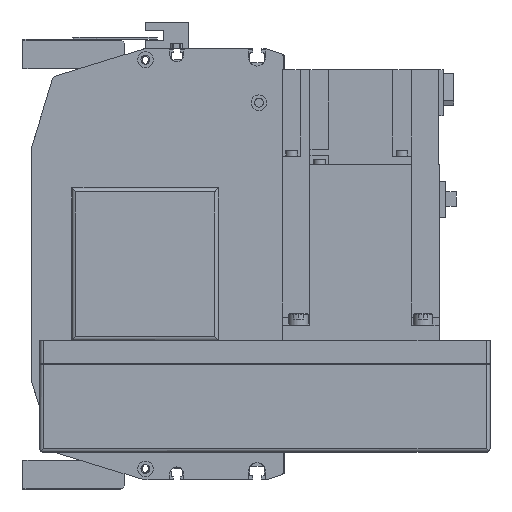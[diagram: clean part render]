
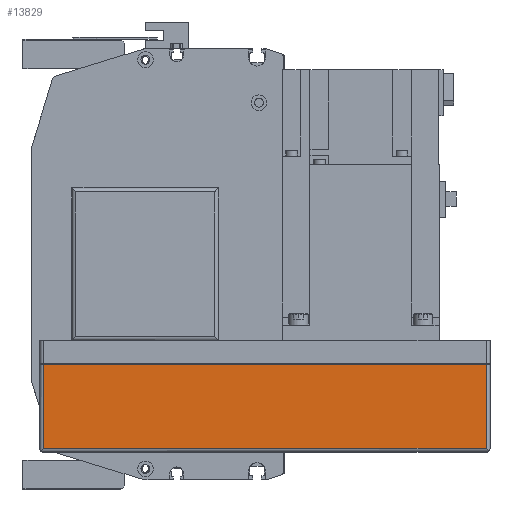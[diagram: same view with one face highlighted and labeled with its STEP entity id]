
A CAD part, left-side view. The second image highlights one B-rep face of the part: STEP entity #13829.
In plain terms, the highlighted planar face has unit normal (-1, 0, 0) as drawn and (0, 1, 0) by its records, which use the part's own axes.
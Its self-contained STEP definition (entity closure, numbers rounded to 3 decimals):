
#2364=ORIENTED_EDGE('',*,*,#5650,.F.);
#2365=ORIENTED_EDGE('',*,*,#5590,.T.);
#2366=ORIENTED_EDGE('',*,*,#5651,.F.);
#2367=ORIENTED_EDGE('',*,*,#5585,.F.);
#5585=EDGE_CURVE('',#7374,#7375,#8804,.T.);
#5590=EDGE_CURVE('',#7380,#7379,#8806,.T.);
#5650=EDGE_CURVE('',#7380,#7374,#8849,.T.);
#5651=EDGE_CURVE('',#7375,#7379,#8850,.T.);
#7374=VERTEX_POINT('',#21485);
#7375=VERTEX_POINT('',#21487);
#7379=VERTEX_POINT('',#21496);
#7380=VERTEX_POINT('',#21498);
#8804=LINE('',#21486,#10141);
#8806=LINE('',#21497,#10143);
#8849=LINE('',#21620,#10186);
#8850=LINE('',#21621,#10187);
#10141=VECTOR('',#17186,1000.);
#10143=VECTOR('',#17196,1000.);
#10186=VECTOR('',#17317,1000.);
#10187=VECTOR('',#17318,1000.);
#11332=EDGE_LOOP('',(#2364,#2365,#2366,#2367));
#12357=FACE_BOUND('',#11332,.T.);
#13220=PLANE('',#14845);
#13829=ADVANCED_FACE('',(#12357),#13220,.T.);
#14845=AXIS2_PLACEMENT_3D('',#21619,#17315,#17316);
#17186=DIRECTION('',(0.,0.,1.));
#17196=DIRECTION('',(0.,0.,1.));
#17315=DIRECTION('',(0.,1.,0.));
#17316=DIRECTION('',(0.,0.,1.));
#17317=DIRECTION('',(1.,0.,0.));
#17318=DIRECTION('',(-1.,0.,0.));
#21485=CARTESIAN_POINT('',(-2.,54.,-55.));
#21486=CARTESIAN_POINT('',(-2.,54.,-57.));
#21487=CARTESIAN_POINT('',(-2.,54.,-12.));
#21496=CARTESIAN_POINT('',(-228.,54.,-12.));
#21497=CARTESIAN_POINT('',(-228.,54.,-57.));
#21498=CARTESIAN_POINT('',(-228.,54.,-55.));
#21619=CARTESIAN_POINT('',(-2.,54.,-57.));
#21620=CARTESIAN_POINT('',(-230.,54.,-55.));
#21621=CARTESIAN_POINT('',(-2.,54.,-12.));
